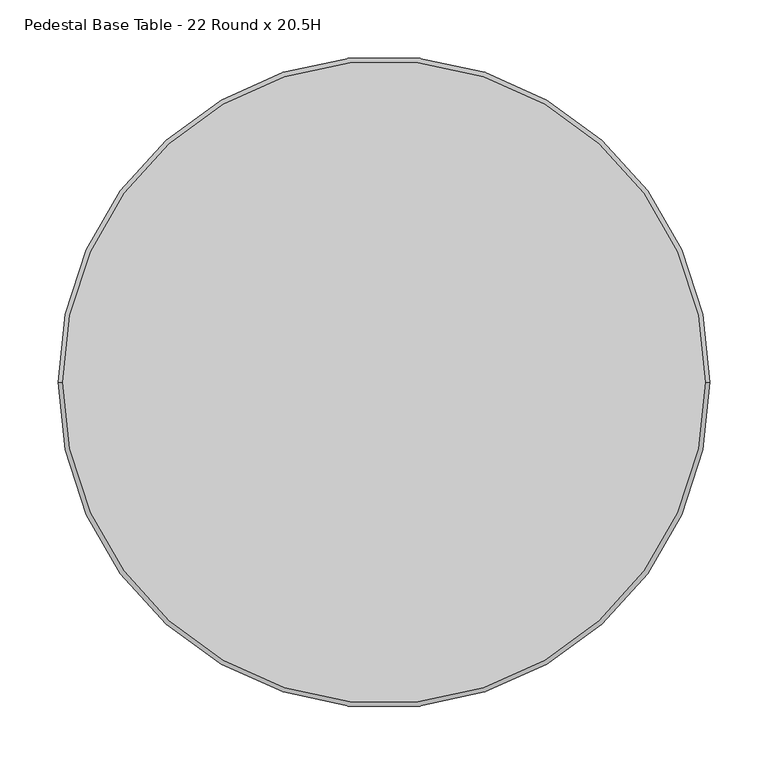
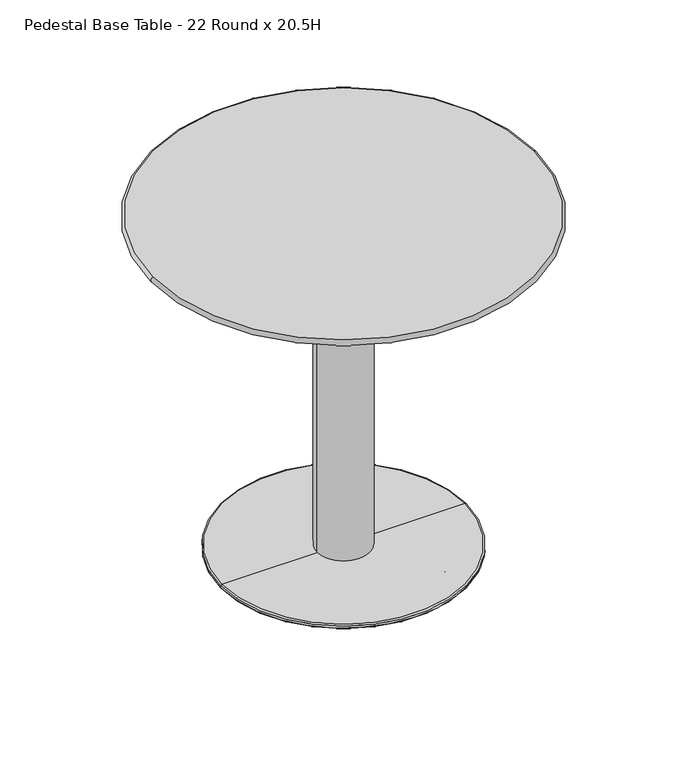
"""IFC4 building model written with IfcOpenShell, lengths in millimetres: furniture geometry, Integra - Coastal Collection - Coastal Metal Tables - Freestanding Table : Pedestal Base Table - 22 Round x 20.5H."""

from ifc_helpers import new_model, si_unit, point, frame, origin, origin_2d, place, context, project, spatial, circle_curve, ellipse_curve, trimmed, segment, composite_curve, outline, extrude, source, transform, mapped, element, save
from ifc_brep_helpers import plane_surface, cylinder_surface, revolved_surface, advanced_brep


def pedestal_base_table_22_round_x_20_5h_a3d0145e(model_context):
    return source(origin(), model_context, "Body", "SolidModel", [
        advanced_brep(
        [(177.8, 0.0, 14.2991915), (-177.8, 0.0, 14.2991915), (-176.2125, 0.0, 15.8866915), (176.2125, 0.0, 15.8866915), (177.8, 0.0, 11.1241915), (-177.8, 0.0, 11.1241915), (176.2125, 0.0, 9.5366915), (-176.2125, 0.0, 9.5366915), (0.0, 0.0, 9.5366915), (0.0, 0.0, 15.8866915)],
        [
            (0, 1, circle_curve(frame((0.0, 0.0, 14.2991915), z_axis=(0.0, 0.0, 1.0), x_axis=(-1.0, 0.0, 0.0)), 177.8)),
            (1, 2, circle_curve(frame((-176.2125, 0.0, 14.2991915), z_axis=(0.0, 1.0, 0.0), x_axis=(1.0, 0.0, 0.0)), 1.5875)),
            (2, 3, circle_curve(frame((0.0, 0.0, 15.8866915), z_axis=(0.0, 0.0, -1.0), x_axis=(-1.0, 0.0, 0.0)), 176.2125)),
            (3, 0, circle_curve(frame((176.2125, 0.0, 14.2991915), z_axis=(0.0, 1.0, 0.0), x_axis=(-1.0, 0.0, 0.0)), 1.5875)),
            (1, 0, circle_curve(frame((0.0, 0.0, 14.2991915), z_axis=(0.0, 0.0, 1.0), x_axis=(-1.0, 0.0, 0.0)), 177.8)),
            (3, 2, circle_curve(frame((0.0, 0.0, 15.8866915), z_axis=(0.0, 0.0, -1.0), x_axis=(-1.0, 0.0, 0.0)), 176.2125)),
            (4, 5, circle_curve(frame((0.0, 0.0, 11.1241915), z_axis=(0.0, 0.0, 1.0), x_axis=(-1.0, 0.0, 0.0)), 177.8)),
            (5, 1),
            (0, 4),
            (5, 4, circle_curve(frame((0.0, 0.0, 11.1241915), z_axis=(0.0, 0.0, 1.0), x_axis=(-1.0, 0.0, 0.0)), 177.8)),
            (6, 7, circle_curve(frame((0.0, 0.0, 9.5366915), z_axis=(0.0, 0.0, 1.0), x_axis=(-1.0, 0.0, 0.0)), 176.2125)),
            (7, 5, circle_curve(frame((-176.2125, 0.0, 11.1241915), z_axis=(0.0, 1.0, 0.0), x_axis=(1.0, 0.0, 0.0)), 1.5875)),
            (4, 6, circle_curve(frame((176.2125, 0.0, 11.1241915), z_axis=(0.0, 1.0, 0.0), x_axis=(-1.0, 0.0, 0.0)), 1.5875)),
            (7, 6, circle_curve(frame((0.0, 0.0, 9.5366915), z_axis=(0.0, 0.0, 1.0), x_axis=(-1.0, 0.0, 0.0)), 176.2125)),
            (8, 7),
            (6, 8),
            (2, 9),
            (9, 3),
        ],
        [
            revolved_surface(trimmed(ellipse_curve(frame((-176.2125, 0.0, 14.2991915), z_axis=(0.0, -1.0, 0.0), x_axis=(1.0, 0.0, 0.0)), 1.5875, 1.5875), [point((-176.2125, 0.0, 15.8866915))], [point((-177.8, 0.0, 14.2991915))], True, "CARTESIAN"), (0.0, 0.0, 15.8866915), (0.0, 0.0, -1.0)),
            cylinder_surface(frame((0.0, 0.0, 15.8866915), z_axis=(0.0, 0.0, -1.0), x_axis=(-1.0, 0.0, 0.0)), 177.8),
            revolved_surface(trimmed(ellipse_curve(frame((-176.2125, 0.0, 11.1241915), z_axis=(0.0, -1.0, 0.0), x_axis=(1.0, 0.0, 0.0)), 1.5875, 1.5875), [point((-177.8, 0.0, 11.1241915))], [point((-176.2125, 0.0, 9.5366915))], True, "CARTESIAN"), (0.0, 0.0, 15.8866915), (0.0, 0.0, -1.0)),
            plane_surface(frame((0.0, 0.0, 9.5366915), z_axis=(0.0, 0.0, -1.0), x_axis=(-1.0, 0.0, 0.0))),
            plane_surface(frame((0.0, 0.0, 15.8866915), z_axis=(0.0, 0.0, 1.0), x_axis=(-1.0, 0.0, 0.0))),
        ],
        [
            (0, [[1, 2, 3, 4]]),
            (0, [[5, -4, 6, -2]]),
            (1, [[7, 8, -1, 9]]),
            (1, [[10, -9, -5, -8]]),
            (2, [[11, 12, -7, 13]]),
            (2, [[14, -13, -10, -12]]),
            (3, [[15, -11, 16]]),
            (3, [[-16, -14, -15]]),
            (4, [[-3, 17, 18]]),
            (4, [[-6, -18, -17]]),
        ],
    ),
        extrude(outline(composite_curve([segment(trimmed(circle_curve(origin_2d(), 38.1), [point((-38.1, 0.0))], [point((38.1, 0.0))], False, "CARTESIAN"), True, "CONTINUOUS"), segment(trimmed(circle_curve(origin_2d(), 38.1), [point((38.1, 0.0))], [point((-38.1, 0.0))], False, "CARTESIAN"), True, "CONTINUOUS")], self_intersect=False)), frame((0.0, 0.0, 15.8866915), z_axis=(0.0, 0.0, 1.0), x_axis=(1.0, 0.0, 0.0)), (0.0, 0.0, 1.0), 485.7633025),
        advanced_brep(
        [(-253.984015, 0.0, 507.9999939), (253.984015, 0.0, 507.9999939), (275.4380192, 0.0, 520.7), (-275.4380192, 0.0, 520.7), (277.1187402, 0.0, 513.1501969), (-277.1187402, 0.0, 513.1501969)],
        [
            (0, 1, circle_curve(frame((0.0, 0.0, 507.9999939), z_axis=(0.0, 0.0, -1.0), x_axis=(1.0, 0.0, 0.0)), 253.984015)),
            (1, 0, circle_curve(frame((0.0, 0.0, 507.9999939), z_axis=(0.0, 0.0, -1.0), x_axis=(-1.0, 0.0, 0.0)), 253.984015)),
            (2, 3, circle_curve(frame((0.0, 0.0, 520.7), z_axis=(0.0, 0.0, 1.0), x_axis=(1.0, 0.0, 0.0)), 275.4380192)),
            (3, 2, circle_curve(frame((0.0, 0.0, 520.7), z_axis=(0.0, 0.0, 1.0), x_axis=(-1.0, 0.0, 0.0)), 275.4380192)),
            (2, 4, circle_curve(frame((275.4380192, 0.0, 516.7380192), z_axis=(0.0, 1.0, 0.0), x_axis=(-1.0, 0.0, 0.0)), 3.9619808)),
            (4, 5, circle_curve(frame((0.0, 0.0, 513.1501969), z_axis=(0.0, 0.0, 1.0), x_axis=(1.0, 0.0, 0.0)), 277.1187402)),
            (5, 3, circle_curve(frame((-275.4380192, 0.0, 516.7380192), z_axis=(0.0, 1.0, 0.0), x_axis=(1.0, 0.0, 0.0)), 3.9619808)),
            (4, 1, circle_curve(frame((253.984015, 0.0, 562.5357186), z_axis=(0.0, 1.0, 0.0), x_axis=(-1.0, 0.0, 0.0)), 54.5357246)),
            (0, 5, circle_curve(frame((-253.984015, 0.0, 562.5357186), z_axis=(0.0, 1.0, 0.0), x_axis=(1.0, 0.0, 0.0)), 54.5357246)),
            (5, 4, circle_curve(frame((0.0, 0.0, 513.1501969), z_axis=(0.0, 0.0, 1.0), x_axis=(-1.0, 0.0, 0.0)), 277.1187402)),
        ],
        [
            plane_surface(frame((-25.4, 0.0, 507.9999939), z_axis=(0.0, 0.0, -1.0), x_axis=(0.0, 1.0, 0.0))),
            plane_surface(frame((-25.4, 0.0, 520.7), z_axis=(0.0, 0.0, 1.0), x_axis=(0.0, -1.0, 0.0))),
            revolved_surface(trimmed(ellipse_curve(frame((275.4380192, 0.0, 516.7380192), z_axis=(0.0, -1.0, 0.0), x_axis=(-1.0, 0.0, 0.0)), 3.9619808, 3.9619808), [point((277.1187402, 0.0, 513.1501969))], [point((275.4380192, 0.0, 520.7))], True, "CARTESIAN"), (0.0, 0.0, 520.7), (0.0, 0.0, 1.0)),
            revolved_surface(trimmed(ellipse_curve(frame((253.984015, 0.0, 562.5357186), z_axis=(0.0, -1.0, 0.0), x_axis=(-1.0, 0.0, 0.0)), 54.5357246, 54.5357246), [point((253.984015, 0.0, 507.9999939))], [point((277.1187402, 0.0, 513.1501969))], True, "CARTESIAN"), (0.0, 0.0, 520.7), (0.0, 0.0, 1.0)),
            revolved_surface(trimmed(ellipse_curve(frame((-275.4380192, 0.0, 516.7380192), z_axis=(0.0, 1.0, 0.0), x_axis=(1.0, 0.0, 0.0)), 3.9619808, 3.9619808), [point((-277.1187402, 0.0, 513.1501969))], [point((-275.4380192, 0.0, 520.7))], True, "CARTESIAN"), (0.0, 0.0, 520.7), (0.0, 0.0, 1.0)),
            revolved_surface(trimmed(ellipse_curve(frame((-253.984015, 0.0, 562.5357186), z_axis=(0.0, 1.0, 0.0), x_axis=(1.0, 0.0, 0.0)), 54.5357246, 54.5357246), [point((-253.984015, 0.0, 507.9999939))], [point((-277.1187402, 0.0, 513.1501969))], True, "CARTESIAN"), (0.0, 0.0, 520.7), (0.0, 0.0, 1.0)),
        ],
        [
            (0, [[1, 2]]),
            (1, [[3, 4]]),
            (2, [[-3, 5, 6, 7]]),
            (3, [[-6, 8, -1, 9]]),
            (4, [[-5, -4, -7, 10]]),
            (5, [[-8, -10, -9, -2]]),
        ],
    ),
        extrude(outline(composite_curve([segment(trimmed(circle_curve(origin_2d(), 254.0), [point((-254.0, 0.0))], [point((254.0, 0.0))], False, "CARTESIAN"), True, "CONTINUOUS"), segment(trimmed(circle_curve(origin_2d(), 254.0), [point((254.0, 0.0))], [point((-254.0, 0.0))], False, "CARTESIAN"), True, "CONTINUOUS")], self_intersect=False)), frame((0.0, 0.0, 501.6499939), z_axis=(0.0, 0.0, 1.0), x_axis=(1.0, 0.0, 0.0)), (0.0, 0.0, 1.0), 6.35),
        advanced_brep(
        [(-117.2443939, 101.6, 9.5239742), (-85.9556061, 101.6, 9.5239742), (-101.6, 101.6, 9.5239742), (-107.7193939, 101.6, -0.0010258), (-95.4806061, 101.6, -0.0010258), (-101.6, 101.6, -0.0010258)],
        [
            (0, 1, circle_curve(frame((-101.6, 101.6, 9.5239742), z_axis=(0.0, 0.0, 1.0), x_axis=(1.0, 0.0, 0.0)), 15.6443939)),
            (1, 2),
            (2, 0),
            (1, 0, circle_curve(frame((-101.6, 101.6, 9.5239742), z_axis=(0.0, 0.0, 1.0), x_axis=(1.0, 0.0, 0.0)), 15.6443939)),
            (3, 4, circle_curve(frame((-101.6, 101.6, -0.0010258), z_axis=(0.0, 0.0, 1.0), x_axis=(1.0, 0.0, 0.0)), 6.1193939)),
            (4, 1, circle_curve(frame((-95.4806061, 101.6, 9.5239742), z_axis=(0.0, -1.0, 0.0), x_axis=(1.0, 0.0, 0.0)), 9.525)),
            (0, 3, circle_curve(frame((-107.7193939, 101.6, 9.5239742), z_axis=(0.0, -1.0, 0.0), x_axis=(-1.0, 0.0, 0.0)), 9.525)),
            (4, 3, circle_curve(frame((-101.6, 101.6, -0.0010258), z_axis=(0.0, 0.0, 1.0), x_axis=(1.0, 0.0, 0.0)), 6.1193939)),
            (5, 4),
            (3, 5),
        ],
        [
            plane_surface(frame((-101.6, 101.6, 9.5239742), z_axis=(0.0, 0.0, 1.0), x_axis=(1.0, 0.0, 0.0))),
            revolved_surface(trimmed(ellipse_curve(frame((-95.4806061, 101.6, 9.5239742), z_axis=(0.0, 1.0, 0.0), x_axis=(1.0, 0.0, 0.0)), 9.525, 9.525), [point((-85.9556061, 101.6, 9.5239742))], [point((-95.4806061, 101.6, -0.0010258))], True, "CARTESIAN"), (-101.6, 101.6, -0.0010258), (0.0, 0.0, -1.0)),
            plane_surface(frame((-101.6, 101.6, -0.0010258), z_axis=(0.0, 0.0, -1.0), x_axis=(1.0, 0.0, 0.0))),
        ],
        [
            (0, [[1, 2, 3]]),
            (0, [[4, -3, -2]]),
            (1, [[5, 6, -1, 7]]),
            (1, [[8, -7, -4, -6]]),
            (2, [[9, -5, 10]]),
            (2, [[-10, -8, -9]]),
        ],
    ),
        advanced_brep(
        [(-101.6, -101.6, 9.5239742), (-85.9556061, -101.6, 9.5239742), (-117.2443939, -101.6, 9.5239742), (-95.4806061, -101.6, -0.0010258), (-107.7193939, -101.6, -0.0010258), (-101.6, -101.6, -0.0010258)],
        [
            (0, 1),
            (1, 2, circle_curve(frame((-101.6, -101.6, 9.5239742), z_axis=(0.0, 0.0, 1.0), x_axis=(1.0, 0.0, 0.0)), 15.6443939)),
            (2, 0),
            (2, 1, circle_curve(frame((-101.6, -101.6, 9.5239742), z_axis=(0.0, 0.0, 1.0), x_axis=(1.0, 0.0, 0.0)), 15.6443939)),
            (1, 3, circle_curve(frame((-95.4806061, -101.6, 9.5239742), z_axis=(0.0, 1.0, 0.0), x_axis=(1.0, 0.0, 0.0)), 9.525)),
            (3, 4, circle_curve(frame((-101.6, -101.6, -0.0010258), z_axis=(0.0, 0.0, 1.0), x_axis=(1.0, 0.0, 0.0)), 6.1193939)),
            (4, 2, circle_curve(frame((-107.7193939, -101.6, 9.5239742), z_axis=(0.0, 1.0, 0.0), x_axis=(-1.0, 0.0, 0.0)), 9.525)),
            (4, 3, circle_curve(frame((-101.6, -101.6, -0.0010258), z_axis=(0.0, 0.0, 1.0), x_axis=(1.0, 0.0, 0.0)), 6.1193939)),
            (3, 5),
            (5, 4),
        ],
        [
            plane_surface(frame((-101.6, -101.6, 9.5239742), z_axis=(0.0, 0.0, 1.0), x_axis=(1.0, 0.0, 0.0))),
            revolved_surface(trimmed(ellipse_curve(frame((-95.4806061, -101.6, 9.5239742), z_axis=(0.0, -1.0, 0.0), x_axis=(1.0, 0.0, 0.0)), 9.525, 9.525), [point((-95.4806061, -101.6, -0.0010258))], [point((-85.9556061, -101.6, 9.5239742))], True, "CARTESIAN"), (-101.6, -101.6, -0.0010258), (0.0, 0.0, 1.0)),
            plane_surface(frame((-101.6, -101.6, -0.0010258), z_axis=(0.0, 0.0, -1.0), x_axis=(1.0, 0.0, 0.0))),
        ],
        [
            (0, [[1, 2, 3]]),
            (0, [[-3, 4, -1]]),
            (1, [[-2, 5, 6, 7]]),
            (1, [[-4, -7, 8, -5]]),
            (2, [[-6, 9, 10]]),
            (2, [[-8, -10, -9]]),
        ],
    ),
        advanced_brep(
        [(101.6, 101.6, 9.5239742), (85.9556061, 101.6, 9.5239742), (117.2443939, 101.6, 9.5239742), (95.4806061, 101.6, -0.0010258), (107.7193939, 101.6, -0.0010258), (101.6, 101.6, -0.0010258)],
        [
            (0, 1),
            (1, 2, circle_curve(frame((101.6, 101.6, 9.5239742), z_axis=(0.0, 0.0, 1.0), x_axis=(-1.0, 0.0, 0.0)), 15.6443939)),
            (2, 0),
            (2, 1, circle_curve(frame((101.6, 101.6, 9.5239742), z_axis=(0.0, 0.0, 1.0), x_axis=(-1.0, 0.0, 0.0)), 15.6443939)),
            (1, 3, circle_curve(frame((95.4806061, 101.6, 9.5239742), z_axis=(0.0, -1.0, 0.0), x_axis=(-1.0, 0.0, 0.0)), 9.525)),
            (3, 4, circle_curve(frame((101.6, 101.6, -0.0010258), z_axis=(0.0, 0.0, 1.0), x_axis=(-1.0, 0.0, 0.0)), 6.1193939)),
            (4, 2, circle_curve(frame((107.7193939, 101.6, 9.5239742), z_axis=(0.0, -1.0, 0.0), x_axis=(1.0, 0.0, 0.0)), 9.525)),
            (4, 3, circle_curve(frame((101.6, 101.6, -0.0010258), z_axis=(0.0, 0.0, 1.0), x_axis=(-1.0, 0.0, 0.0)), 6.1193939)),
            (3, 5),
            (5, 4),
        ],
        [
            plane_surface(frame((101.6, 101.6, 9.5239742), z_axis=(0.0, 0.0, 1.0), x_axis=(-1.0, 0.0, 0.0))),
            revolved_surface(trimmed(ellipse_curve(frame((95.4806061, 101.6, 9.5239742), z_axis=(0.0, 1.0, 0.0), x_axis=(-1.0, 0.0, 0.0)), 9.525, 9.525), [point((95.4806061, 101.6, -0.0010258))], [point((85.9556061, 101.6, 9.5239742))], True, "CARTESIAN"), (101.6, 101.6, -0.0010258), (0.0, 0.0, 1.0)),
            plane_surface(frame((101.6, 101.6, -0.0010258), z_axis=(0.0, 0.0, -1.0), x_axis=(-1.0, 0.0, 0.0))),
        ],
        [
            (0, [[1, 2, 3]]),
            (0, [[-3, 4, -1]]),
            (1, [[-2, 5, 6, 7]]),
            (1, [[-4, -7, 8, -5]]),
            (2, [[-6, 9, 10]]),
            (2, [[-8, -10, -9]]),
        ],
    ),
        advanced_brep(
        [(117.2443939, -101.6, 9.5239742), (85.9556061, -101.6, 9.5239742), (101.6, -101.6, 9.5239742), (107.7193939, -101.6, -0.0010258), (95.4806061, -101.6, -0.0010258), (101.6, -101.6, -0.0010258)],
        [
            (0, 1, circle_curve(frame((101.6, -101.6, 9.5239742), z_axis=(0.0, 0.0, 1.0), x_axis=(-1.0, 0.0, 0.0)), 15.6443939)),
            (1, 2),
            (2, 0),
            (1, 0, circle_curve(frame((101.6, -101.6, 9.5239742), z_axis=(0.0, 0.0, 1.0), x_axis=(-1.0, 0.0, 0.0)), 15.6443939)),
            (3, 4, circle_curve(frame((101.6, -101.6, -0.0010258), z_axis=(0.0, 0.0, 1.0), x_axis=(-1.0, 0.0, 0.0)), 6.1193939)),
            (4, 1, circle_curve(frame((95.4806061, -101.6, 9.5239742), z_axis=(0.0, 1.0, 0.0), x_axis=(-1.0, 0.0, 0.0)), 9.525)),
            (0, 3, circle_curve(frame((107.7193939, -101.6, 9.5239742), z_axis=(0.0, 1.0, 0.0), x_axis=(1.0, 0.0, 0.0)), 9.525)),
            (4, 3, circle_curve(frame((101.6, -101.6, -0.0010258), z_axis=(0.0, 0.0, 1.0), x_axis=(-1.0, 0.0, 0.0)), 6.1193939)),
            (5, 4),
            (3, 5),
        ],
        [
            plane_surface(frame((101.6, -101.6, 9.5239742), z_axis=(0.0, 0.0, 1.0), x_axis=(-1.0, 0.0, 0.0))),
            revolved_surface(trimmed(ellipse_curve(frame((95.4806061, -101.6, 9.5239742), z_axis=(0.0, -1.0, 0.0), x_axis=(-1.0, 0.0, 0.0)), 9.525, 9.525), [point((85.9556061, -101.6, 9.5239742))], [point((95.4806061, -101.6, -0.0010258))], True, "CARTESIAN"), (101.6, -101.6, -0.0010258), (0.0, 0.0, -1.0)),
            plane_surface(frame((101.6, -101.6, -0.0010258), z_axis=(0.0, 0.0, -1.0), x_axis=(-1.0, 0.0, 0.0))),
        ],
        [
            (0, [[1, 2, 3]]),
            (0, [[4, -3, -2]]),
            (1, [[5, 6, -1, 7]]),
            (1, [[8, -7, -4, -6]]),
            (2, [[9, -5, 10]]),
            (2, [[-10, -8, -9]]),
        ],
    ),
    ])


if __name__ == "__main__":
    model = new_model("IFC4")
    model_context = context("Model", 3, world=origin())
    ifc_project = project(units=[si_unit("LENGTHUNIT", "METRE", prefix="MILLI")], contexts=[model_context])
    site = spatial("IfcSite", under=ifc_project)
    building = spatial("IfcBuilding", under=site)
    placement = place(None, origin())
    pedestal_base_table_22_round_x_20_5h_shape = pedestal_base_table_22_round_x_20_5h_a3d0145e(model_context)
    element("IfcFurniture", 1, ObjectType="Integra - Coastal Collection - Coastal Metal Tables - Freestanding Table : Pedestal Base Table - 22 Round x 20.5H", at=placement, inside=building, context=model_context, shape_type="MappedRepresentation", body=[
        mapped(pedestal_base_table_22_round_x_20_5h_shape, transform((0.0, 0.0, 0.0), x_axis=(1.0, 0.0, 0.0), y_axis=(0.0, 1.0, 0.0), z_axis=(0.0, 0.0, 1.0))),
    ])
    save(model, "model.ifc")
